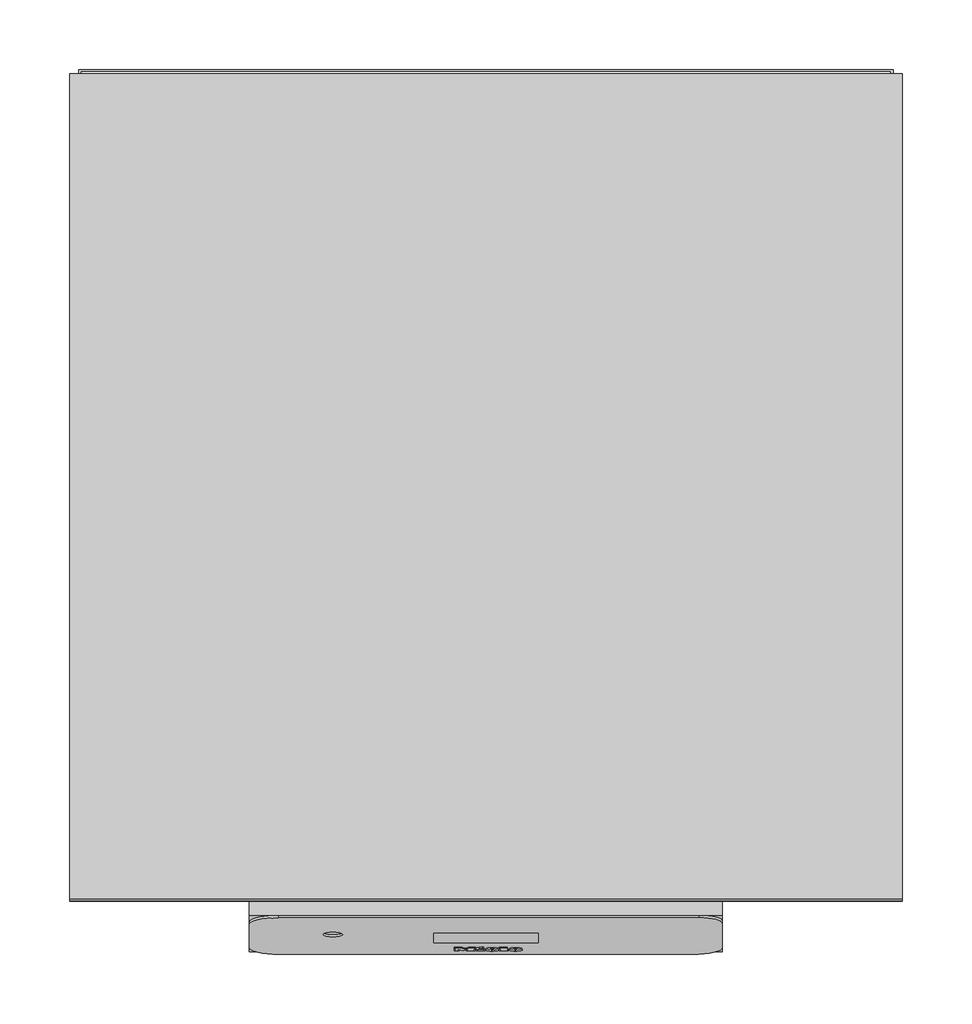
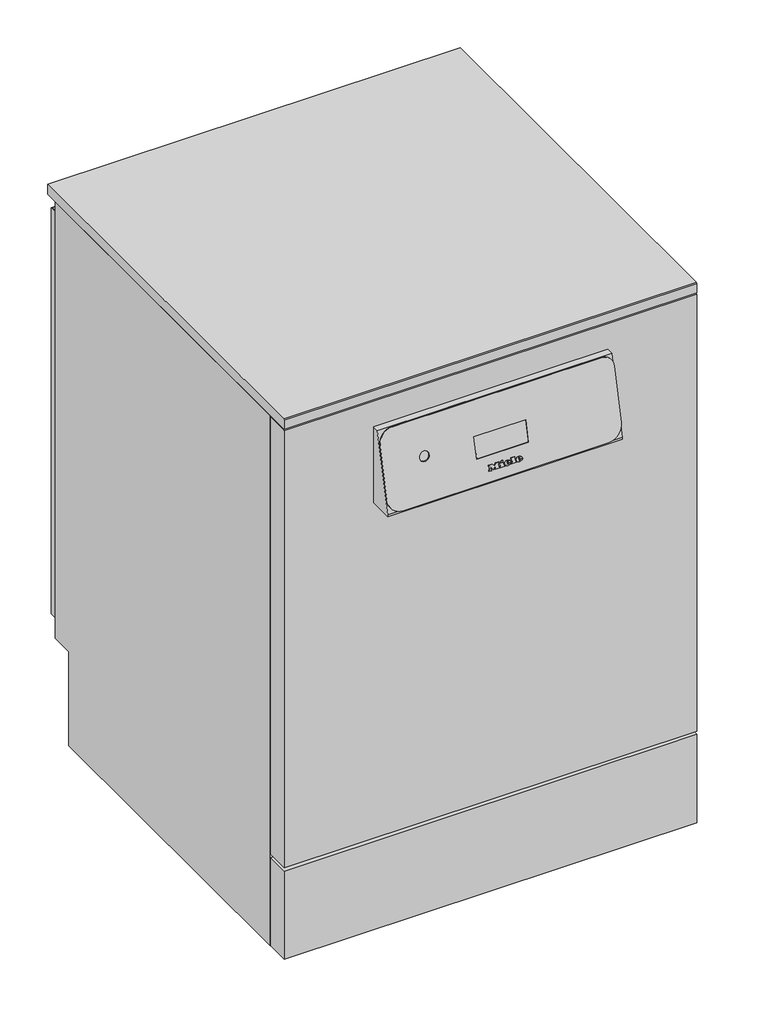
# Not in any storey: 1 proxy.
"""IFC4 building model written with IfcOpenShell, lengths in millimetres."""

from ifc_helpers import new_model, si_unit, origin, place, context, project, spatial, transform, mapped, element, save
from components import specialty_equipment_0646c35d

model = new_model("IFC4")

# Units and contexts
model_context = context("Model", 3, world=origin())
ifc_project = project(units=[si_unit("LENGTHUNIT", "METRE", prefix="MILLI")], contexts=[model_context])

# Site, building
site = spatial("IfcSite", under=ifc_project)
building = spatial("IfcBuilding", under=site)

# Proxy
placement = place(None, origin())
specialty_equipment_shape = specialty_equipment_0646c35d(model_context)
element("IfcBuildingElementProxy", 1, Name="12065570_NWE_PFD400_LW : 61040001_NWE_12065570_PFD400_LW", ObjectType="12065570_NWE_PFD400_LW : 61040001_NWE_12065570_PFD400_LW", at=placement, inside=building, context=model_context, shape_type="MappedRepresentation", body=[
    mapped(specialty_equipment_shape, transform((0.0, 0.0, 0.0), x_axis=(1.0, 0.0, 0.0), y_axis=(0.0, 1.0, 0.0), z_axis=(0.0, 0.0, 1.0))),
])

save(model, "model.ifc")
